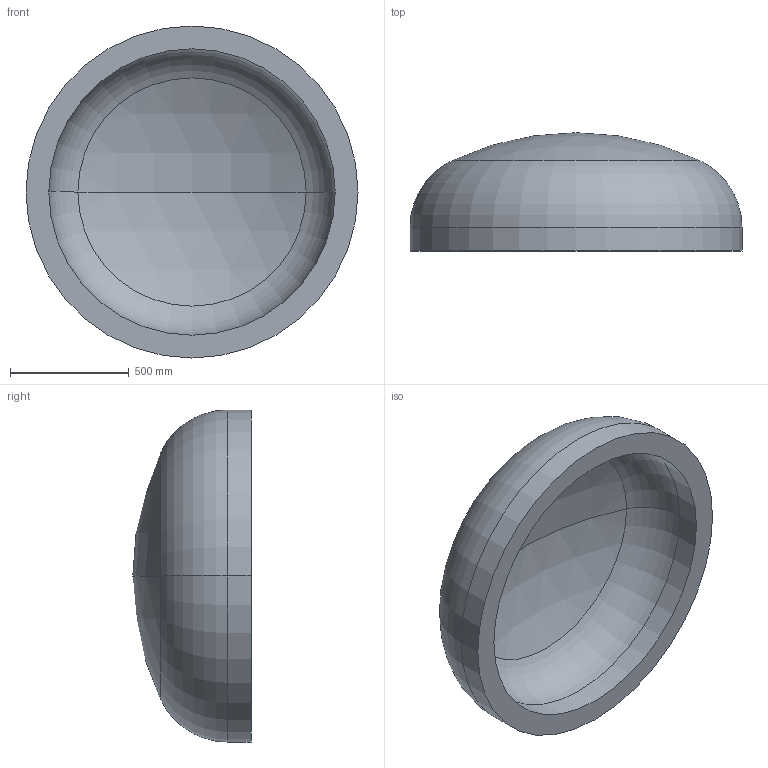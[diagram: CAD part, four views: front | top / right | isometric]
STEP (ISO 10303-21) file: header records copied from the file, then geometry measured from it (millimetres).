
FILE_DESCRIPTION (( 'STEP AP203' ), '1' );
FILE_NAME ('DIN 28013 Korbbogenform_-_Boden DIN 28013 - 1400 x 100 - I - s=96.step', '2016-07-01T10:28:23', ( '' ), ( '' ), 'SwSTEP 2.0', 'SolidWorks 2013', '' );
FILE_SCHEMA (( 'CONFIG_CONTROL_DESIGN' ));
Length unit declared in the file: millimetre
Products named in the file (1): DIN 28013 Korbbogenform_-_Boden DIN 28013 - 1400 x 100 - I - s=96
Bounding box: 1400 x 498.87 x 1400 mm (x, y, z)
Volume: 226872742.5 mm3; surface area: 5139093.5 mm2
Topology: 1 solids, 1 shells, 13 faces, 24 edges, 14 vertices
Faces by surface type: torus 4, cylinder 4, sphere 4, plane 1
Entity records: 407 total; most frequent: DIRECTION 72, CARTESIAN_POINT 52, ORIENTED_EDGE 48, AXIS2_PLACEMENT_3D 34, EDGE_CURVE 24, CIRCLE 20, EDGE_LOOP 14, VERTEX_POINT 14
